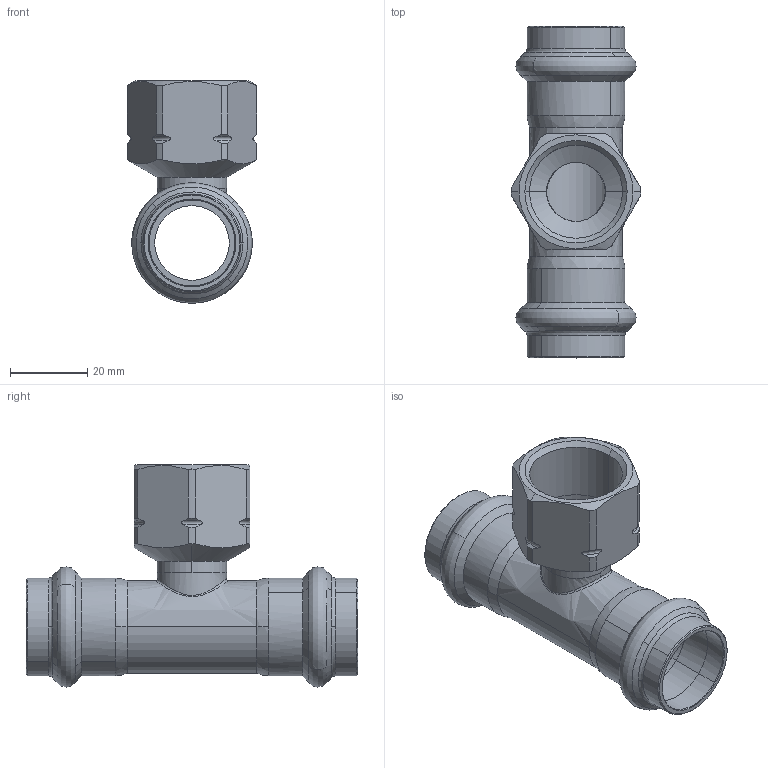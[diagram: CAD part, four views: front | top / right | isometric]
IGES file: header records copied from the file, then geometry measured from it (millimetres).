
Start section: Elysium IGES Interface
Global section: file name: C:\3d modellen sudo\C-Pr VP\SP8130GV\8130GVW223422.igs; native system: CoCreate Modeling 17.00A  17-Jun-2010; preprocessor: CoCreate IGES_3D V2.2; author: Unknown; organization: Unknown; date: 20130205.103426; units: millimetre
Bounding box: 33.6 x 86.01 x 57.59 mm (x, y, z)
Volume: 20280.9 mm3; surface area: 18962.3 mm2
Topology: 1 solids, 1 shells, 135 faces, 354 edges, 224 vertices
Faces by surface type: bspline 135
